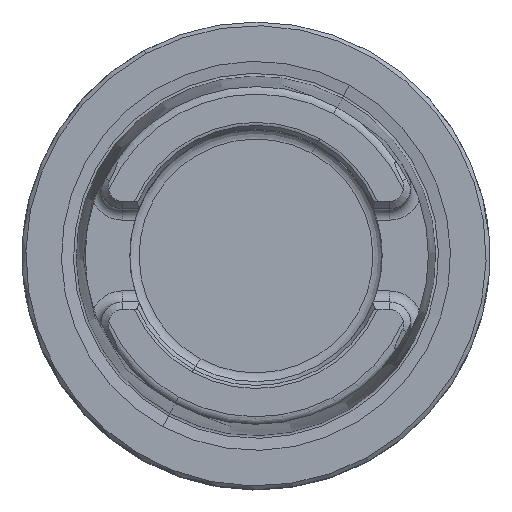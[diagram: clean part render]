
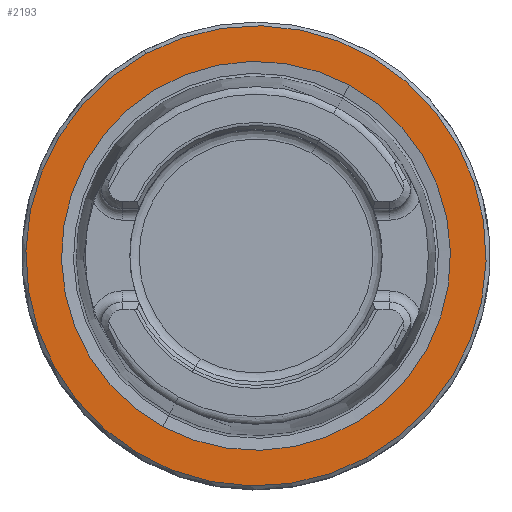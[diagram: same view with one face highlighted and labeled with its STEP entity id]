
A CAD part, top view. The second image highlights one B-rep face of the part: STEP entity #2193.
In plain terms, the highlighted planar face has unit normal (0, 0, 1).
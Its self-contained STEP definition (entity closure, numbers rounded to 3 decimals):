
#2130=AXIS2_PLACEMENT_3D('Circle Axis2P3D',#2128,#2129,$) ;
#2156=AXIS2_PLACEMENT_3D('Circle Axis2P3D',#2154,#2155,$) ;
#2169=AXIS2_PLACEMENT_3D('Plane Axis2P3D',#2166,#2167,#2168) ;
#2173=AXIS2_PLACEMENT_3D('Circle Axis2P3D',#2171,#2172,$) ;
#2182=AXIS2_PLACEMENT_3D('Circle Axis2P3D',#2180,#2181,$) ;
#2128=CARTESIAN_POINT('Axis2P3D Location',(0.,0.,0.)) ;
#2132=CARTESIAN_POINT('Vertex',(12.561,22.993,0.)) ;
#2134=CARTESIAN_POINT('Vertex',(-12.561,-22.993,0.)) ;
#2154=CARTESIAN_POINT('Axis2P3D Location',(0.,0.,0.)) ;
#2166=CARTESIAN_POINT('Axis2P3D Location',(0.,-24.321,0.)) ;
#2171=CARTESIAN_POINT('Axis2P3D Location',(0.,0.,0.)) ;
#2175=CARTESIAN_POINT('Vertex',(14.862,-27.205,0.)) ;
#2177=CARTESIAN_POINT('Vertex',(-14.862,27.205,0.)) ;
#2180=CARTESIAN_POINT('Axis2P3D Location',(0.,0.,0.)) ;
#2129=DIRECTION('Axis2P3D Direction',(0.,0.,1.)) ;
#2155=DIRECTION('Axis2P3D Direction',(0.,0.,1.)) ;
#2167=DIRECTION('Axis2P3D Direction',(0.,0.,-1.)) ;
#2168=DIRECTION('Axis2P3D XDirection',(-1.,0.,0.)) ;
#2172=DIRECTION('Axis2P3D Direction',(0.,0.,-1.)) ;
#2181=DIRECTION('Axis2P3D Direction',(0.,0.,-1.)) ;
#2186=ORIENTED_EDGE('',*,*,#2179,.F.) ;
#2187=ORIENTED_EDGE('',*,*,#2184,.F.) ;
#2190=ORIENTED_EDGE('',*,*,#2136,.T.) ;
#2191=ORIENTED_EDGE('',*,*,#2158,.T.) ;
#2192=FACE_BOUND('',#2189,.T.) ;
#2193=ADVANCED_FACE('NO_CUT',(#2188,#2192),#2170,.F.) ;
#2131=CIRCLE('generated circle',#2130,26.2) ;
#2157=CIRCLE('generated circle',#2156,26.2) ;
#2174=CIRCLE('generated circle',#2173,31.) ;
#2183=CIRCLE('generated circle',#2182,31.) ;
#2136=EDGE_CURVE('',#2133,#2135,#2131,.F.) ;
#2158=EDGE_CURVE('',#2135,#2133,#2157,.F.) ;
#2179=EDGE_CURVE('',#2176,#2178,#2174,.T.) ;
#2184=EDGE_CURVE('',#2178,#2176,#2183,.T.) ;
#2185=EDGE_LOOP('',(#2186,#2187)) ;
#2189=EDGE_LOOP('',(#2190,#2191)) ;
#2188=FACE_OUTER_BOUND('',#2185,.T.) ;
#2170=PLANE('',#2169) ;
#2133=VERTEX_POINT('',#2132) ;
#2135=VERTEX_POINT('',#2134) ;
#2176=VERTEX_POINT('',#2175) ;
#2178=VERTEX_POINT('',#2177) ;
